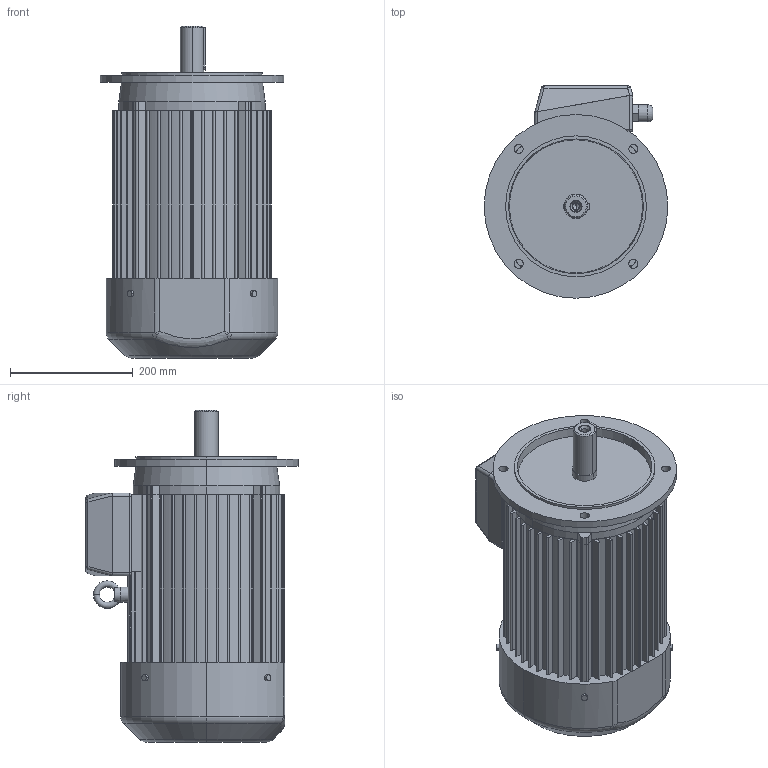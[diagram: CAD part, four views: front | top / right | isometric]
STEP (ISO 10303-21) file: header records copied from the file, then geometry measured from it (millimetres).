
FILE_DESCRIPTION (( 'STEP AP203' ), '1' );
FILE_NAME ('3SIEK132S;M.STEP', '2015-01-09T07:14:04', ( 'Indukta' ), ( 'Celma Indukta S.A.' ), 'SwSTEP 2.0', 'SolidWorks 2003064', '' );
FILE_SCHEMA (( 'CONFIG_CONTROL_DESIGN' ));
Length unit declared in the file: millimetre
Products named in the file (1): 3SIEK132S;M
Bounding box: 300 x 347 x 542 mm (x, y, z)
Volume: 24703561.6 mm3; surface area: 1023579.6 mm2
Topology: 14 solids, 14 shells, 390 faces, 1017 edges, 652 vertices
Faces by surface type: cylinder 180, plane 169, torus 16, cone 16, bspline 5, sphere 4
Entity records: 15749 total; most frequent: CARTESIAN_POINT 5901, DIRECTION 2128, ORIENTED_EDGE 2018, EDGE_CURVE 1009, AXIS2_PLACEMENT_3D 778, VERTEX_POINT 652, LINE 572, VECTOR 572
